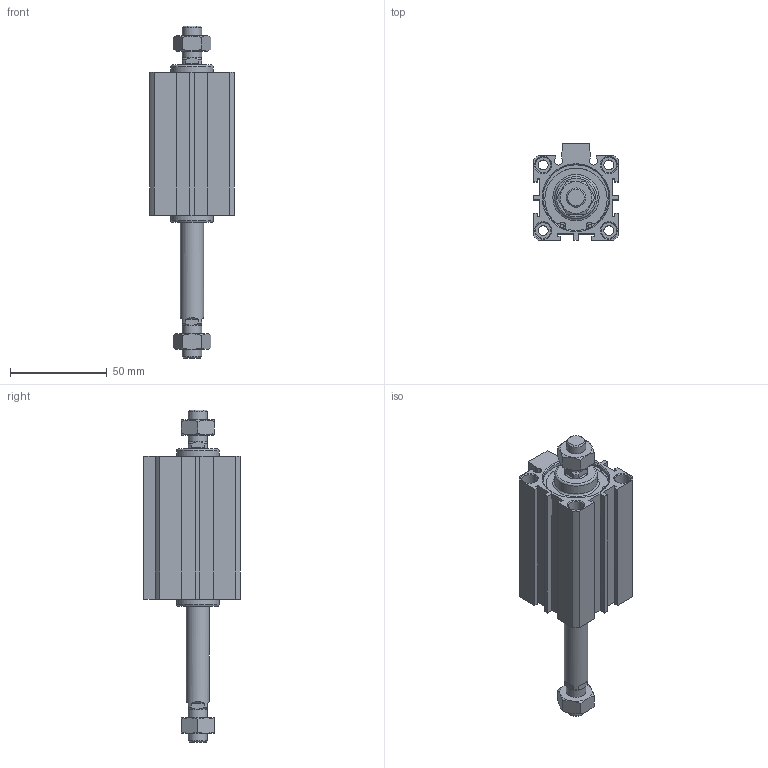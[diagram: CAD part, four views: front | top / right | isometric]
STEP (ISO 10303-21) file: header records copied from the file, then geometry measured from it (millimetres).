
FILE_DESCRIPTION((''),'2;1');
FILE_NAME('I:\3D電子目錄\氣缸\JDD\JDD-B\JDD32-B\JDD32x50-B.stp','2007-02-09T16:41:59',('662F206'),(''),'Autodesk Inventor 10','Autodesk Inventor 10','');
FILE_SCHEMA(('AUTOMOTIVE_DESIGN { 1 0 10303 214 1 1 1 1 }'));
Length unit declared in the file: millimetre
Products named in the file (3): JDD32-B; R 形環 35
Assembly tree (3 placements, depth 2):
  JDD32-B
    JDD32-B
    R 形環 35  x2
Bounding box: 44 x 50 x 172 mm (x, y, z)
Volume: 137735.7 mm3; surface area: 36215.3 mm2
Topology: 3 solids, 3 shells, 207 faces, 489 edges, 314 vertices
Faces by surface type: plane 112, cylinder 53, cone 38, bspline 2, torus 2
Full cylindrical faces by diameter (mm): 1.9 x4, 2.2 x2, 5.1 x4, 8 x8, 10 x4, 12 x1, 22 x2, 34 x4, 36 x2
Entity records: 5397 total; most frequent: CARTESIAN_POINT 1081, DIRECTION 894, ORIENTED_EDGE 802, EDGE_CURVE 401, AXIS2_PLACEMENT_3D 346, VERTEX_POINT 287, EDGE_LOOP 284, VECTOR 202
